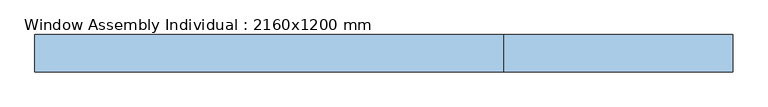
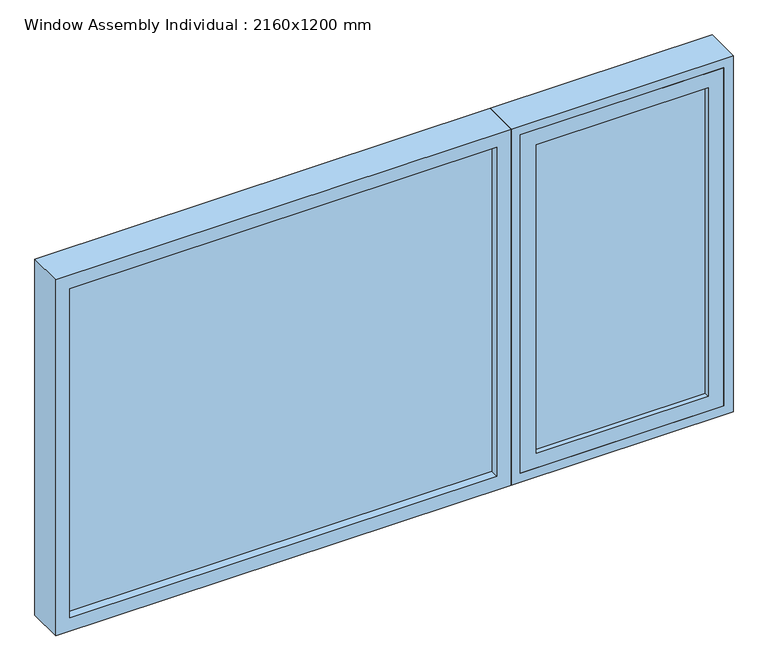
"""IFC4 building model written with IfcOpenShell, lengths in millimetres: window geometry, Window Assembly Individual : 2160x1200 mm."""

import ifcopenshell
import ifcopenshell.guid

model = None  # the IFC model being written
_history = None  # IfcOwnerHistory: only IFC2X3 demands one
_inside = {}  # id of a spatial element -> (the spatial element, [elements in it])
_under = {}  # id of a project, library or spatial element -> (it, [spatial elements below it])
_declared = {}  # id of a project -> (the project, [libraries it declares])
_typed = {}  # id of a type object -> (the type object, [elements of that type])
_made_of = {}  # id of a material, layer set ... -> (it, [elements and type objects made of it])


def new_model(schema):
    """Start an empty IFC model of exactly this schema.

    Asked for "IFC4X3", IfcOpenShell would pick the latest addendum, in which some entities
    have other attributes; the version numbers below select the first issue.
    IFC2X3 requires an IfcOwnerHistory on every rooted entity: one is made here for all.
    """
    global model, _history
    if schema == "IFC4X3":
        model = ifcopenshell.file(schema_version=(4, 3, 0, 0))
    else:
        model = ifcopenshell.file(schema=schema)
    _inside.clear()
    _under.clear()
    _declared.clear()
    _typed.clear()
    _made_of.clear()
    _history = None
    if model.schema == "IFC2X3":
        org = make("IfcOrganization", Name="unknown")
        user = make(
            "IfcPersonAndOrganization",
            ThePerson=make("IfcPerson", FamilyName="unknown"),
            TheOrganization=org,
        )
        app = make(
            "IfcApplication",
            ApplicationDeveloper=org,
            Version="unknown",
            ApplicationFullName="unknown",
            ApplicationIdentifier="unknown",
        )
        _history = make(
            "IfcOwnerHistory",
            OwningUser=user,
            OwningApplication=app,
            ChangeAction="ADDED",
            CreationDate=0,
        )
    return model


def make(cls, **values):
    """One entity of the class cls with the attributes given. An attribute that is None is left unset."""
    return model.create_entity(
        cls, **{name: value for name, value in values.items() if value is not None}
    )


def rooted(cls, **values):
    """An entity with a GlobalId (a new one), such as an element, a storey or a relation."""
    return make(cls, GlobalId=ifcopenshell.guid.new(), OwnerHistory=_history, **values)


def si_unit(unit_type, name, prefix=None):
    """IfcSIUnit, for example si_unit("LENGTHUNIT", "METRE", prefix="MILLI")."""
    return make("IfcSIUnit", UnitType=unit_type, Prefix=prefix, Name=name)


def assignment(units):
    """IfcUnitAssignment: the units of a project."""
    return None if units is None else make("IfcUnitAssignment", Units=units)


def point(xyz):
    """IfcCartesianPoint."""
    return None if xyz is None else make("IfcCartesianPoint", Coordinates=xyz)


def direction(xyz):
    """IfcDirection."""
    return None if xyz is None else make("IfcDirection", DirectionRatios=xyz)


def frame(location, z_axis=None, x_axis=None):
    """IfcAxis2Placement3D, a coordinate frame: its origin and axes. An axis left out is left unset."""
    return make(
        "IfcAxis2Placement3D",
        Location=point(location),
        Axis=direction(z_axis),
        RefDirection=direction(x_axis),
    )


def origin():
    """The frame at (0, 0, 0) with its axes left unset."""
    return frame((0.0, 0.0, 0.0))


def place(relative_to, where):
    """IfcLocalPlacement: puts the frame where relative to a parent placement (None: the world)."""
    return make(
        "IfcLocalPlacement", PlacementRelTo=relative_to, RelativePlacement=where
    )


def context(
    kind, dimensions, precision=None, world=None, true_north=None, identifier=None
):
    """IfcGeometricRepresentationContext, for example the 3D "Model" context."""
    return make(
        "IfcGeometricRepresentationContext",
        ContextIdentifier=identifier,
        ContextType=kind,
        CoordinateSpaceDimension=dimensions,
        Precision=precision,
        WorldCoordinateSystem=world,
        TrueNorth=true_north,
    )


def project(units=None, contexts=None):
    """IfcProject with its units and contexts."""
    return rooted(
        "IfcProject",
        Name="project",
        RepresentationContexts=contexts,
        UnitsInContext=assignment(units),
    )


def spatial(cls, under=None, at=None, **own):
    """A site, building, storey or space (cls), placed at a placement, below another one or the project."""
    s = rooted(cls, ObjectPlacement=at, **own)
    if under is not None:
        _under.setdefault(under.id(), (under, []))[1].append(s)
    return s


def polyline(points):
    """IfcPolyline through the points."""
    return make("IfcPolyline", Points=[point(p) for p in points])


def outline(outer, holes=None, kind="AREA"):
    """IfcArbitraryClosedProfileDef: a profile drawn as a closed curve; with holes, ...WithVoids."""
    if holes is None:
        return make("IfcArbitraryClosedProfileDef", ProfileType=kind, OuterCurve=outer)
    return make(
        "IfcArbitraryProfileDefWithVoids",
        ProfileType=kind,
        OuterCurve=outer,
        InnerCurves=holes,
    )


def extrude(swept, where, along, depth):
    """IfcExtrudedAreaSolid: the profile swept, set in the frame where, extruded along a direction by depth."""
    return make(
        "IfcExtrudedAreaSolid",
        SweptArea=swept,
        Position=where,
        ExtrudedDirection=direction(along),
        Depth=depth,
    )


def faces_of(points, faces, orient=None, outer=None):
    """IfcFace entities. A face is a list of loops; a loop is a list of indices into points, from 0.

    orient and outer hold one flag for each loop. By default every Orientation is true, the
    first loop of a face is its IfcFaceOuterBound and the others are IfcFaceBound.
    """
    made = []
    for i, loops in enumerate(faces):
        bounds = []
        for j, loop in enumerate(loops):
            is_outer = j == 0 if outer is None else outer[i][j]
            bounds.append(
                make(
                    "IfcFaceOuterBound" if is_outer else "IfcFaceBound",
                    Bound=make("IfcPolyLoop", Polygon=[points[k] for k in loop]),
                    Orientation=True if orient is None else orient[i][j],
                )
            )
        made.append(make("IfcFace", Bounds=bounds))
    return made


def faceted_brep(points, faces, orient=None, outer=None, voids=None):
    """IfcFacetedBrep: a solid bounded by flat faces; with voids (closed shells), ...WithVoids."""
    shared = [point(p) for p in points]
    hull = make("IfcClosedShell", CfsFaces=faces_of(shared, faces, orient, outer))
    if voids is None:
        return make("IfcFacetedBrep", Outer=hull)
    return make(
        "IfcFacetedBrepWithVoids",
        Outer=hull,
        Voids=[
            make(cls, CfsFaces=faces_of(shared, fs, o, b)) for cls, fs, o, b in voids
        ],
    )


def shape(context_of_items, identifier, shape_type, items):
    """IfcShapeRepresentation: the items that make up one representation, for example the "Body"."""
    return make(
        "IfcShapeRepresentation",
        ContextOfItems=context_of_items,
        RepresentationIdentifier=identifier,
        RepresentationType=shape_type,
        Items=items,
    )


def source(mapping_origin, context_of_items, identifier, shape_type, items):
    """IfcRepresentationMap: a shape defined once, which mapped items show again and again."""
    return make(
        "IfcRepresentationMap",
        MappingOrigin=mapping_origin,
        MappedRepresentation=shape(context_of_items, identifier, shape_type, items),
    )


def transform(
    local_origin,
    x_axis=None,
    y_axis=None,
    z_axis=None,
    scale=None,
    scale2=None,
    scale3=None,
    uniform=True,
):
    """IfcCartesianTransformationOperator3D, or its non-uniform kind. x_axis, y_axis, z_axis: its Axis1, 2, 3."""
    if uniform:
        return make(
            "IfcCartesianTransformationOperator3D",
            Axis1=direction(x_axis),
            Axis2=direction(y_axis),
            LocalOrigin=point(local_origin),
            Scale=scale,
            Axis3=direction(z_axis),
        )
    return make(
        "IfcCartesianTransformationOperator3DnonUniform",
        Axis1=direction(x_axis),
        Axis2=direction(y_axis),
        LocalOrigin=point(local_origin),
        Scale=scale,
        Axis3=direction(z_axis),
        Scale2=scale2,
        Scale3=scale3,
    )


def mapped(mapping_source, mapping_target):
    """IfcMappedItem: shows the shape of a source again, moved by a transform."""
    return make(
        "IfcMappedItem", MappingSource=mapping_source, MappingTarget=mapping_target
    )


def made_of(thing, what):
    """Note that an element or type object is made of a material, layer set ...; save() writes the relation."""
    if what is not None:
        _made_of.setdefault(what.id(), (what, []))[1].append(thing)
    return thing


def element(
    cls,
    number,
    at=None,
    inside=None,
    cuts=None,
    type_object=None,
    material=None,
    context=None,
    identifier="Body",
    shape_type=None,
    held_by="IfcProductDefinitionShape",
    body=None,
    shapes=None,
    **own,
):
    """One element of the class cls, such as IfcWall. Its Tag is "e" and its number.

    at: its placement. inside: the storey or other place that contains it. cuts: it is an
    opening in that element (IfcRelVoidsElement). A single representation is given by context,
    identifier, shape_type and body (its items); several are given by shapes. held_by: the class
    of the entity that holds the representations. save() writes the other relations.
    """
    e = rooted(cls, Tag="e%d" % number, ObjectPlacement=at, **own)
    if body is not None:
        shapes = [shape(context, identifier, shape_type, body)]
    if shapes is not None:
        e.Representation = make(held_by, Representations=shapes)
    if inside is not None:
        _inside.setdefault(inside.id(), (inside, []))[1].append(e)
    if cuts is not None:
        rooted(
            "IfcRelVoidsElement", RelatingBuildingElement=cuts, RelatedOpeningElement=e
        )
    if type_object is not None:
        _typed.setdefault(type_object.id(), (type_object, []))[1].append(e)
    return made_of(e, material)


def aggregate(whole, parts):
    """IfcRelAggregates: a whole, such as a stair, and the parts it consists of."""
    return rooted("IfcRelAggregates", RelatingObject=whole, RelatedObjects=parts)


def save(model, path):
    """Write the relations noted so far, then the file.

    IfcRelAggregates (storeys below a building ...), IfcRelContainedInSpatialStructure (elements
    in a storey), IfcRelDefinesByType, IfcRelAssociatesMaterial and IfcRelDeclares: one each for
    every whole, place, type object, material and project.
    """
    for whole, parts in _under.values():
        aggregate(whole, parts)
    for where, things in _inside.values():
        rooted(
            "IfcRelContainedInSpatialStructure",
            RelatedElements=things,
            RelatingStructure=where,
        )
    for kind, things in _typed.values():
        rooted("IfcRelDefinesByType", RelatedObjects=things, RelatingType=kind)
    for what, things in _made_of.values():
        rooted("IfcRelAssociatesMaterial", RelatedObjects=things, RelatingMaterial=what)
    for by, libraries in _declared.values():
        rooted("IfcRelDeclares", RelatingContext=by, RelatedDefinitions=libraries)
    model.write(path)


def window_assembly_individual_2160x1200_mm_64654f8e(model_context):
    return source(origin(), model_context, "Body", "SolidModel", [
        extrude(outline(polyline([(1970.0, 402.0), (830.0, 402.0), (830.0, 1050.0), (1970.0, 1050.0), (1970.0, 402.0)]), holes=[polyline([(880.0, 452.0), (1920.0, 452.0), (1920.0, 1000.0), (880.0, 1000.0), (880.0, 452.0)])]), frame((0.0, -190.0, 0.0), z_axis=(0.0, 1.0, 0.0), x_axis=(0.0, 0.0, 1.0)), (0.0, 0.0, 1.0), 50.0),
        extrude(outline(polyline([(1000.0, -155.0), (1000.0, -175.0), (452.0, -175.0), (452.0, -155.0), (1000.0, -155.0)])), frame((0.0, 0.0, 880.0), z_axis=(0.0, 0.0, 1.0), x_axis=(1.0, 0.0, 0.0)), (0.0, 0.0, 1.0), 1040.0),
        faceted_brep([(1035.0, -75.0, 1955.0), (1035.0, -75.0, 845.0), (1035.0, -140.0, 845.0), (1035.0, -140.0, 1955.0), (1050.0, -140.0, 830.0), (1050.0, -140.0, 1970.0), (402.0, -140.0, 1970.0), (402.0, -140.0, 830.0), (417.0, -140.0, 845.0), (417.0, -140.0, 1955.0), (417.0, -75.0, 845.0), (1080.0, -75.0, 2000.0), (1080.0, -75.0, 800.0), (372.0, -75.0, 800.0), (372.0, -75.0, 2000.0), (417.0, -75.0, 1955.0), (1080.0, -190.0, 2000.0), (1080.0, -190.0, 800.0), (372.0, -190.0, 800.0), (372.0, -190.0, 2000.0), (1050.0, -190.0, 1970.0), (1050.0, -190.0, 830.0), (402.0, -190.0, 830.0), (402.0, -190.0, 1970.0)], [[[0, 1, 2, 3]], [[4, 5, 6, 7], [3, 2, 8, 9]], [[1, 10, 8, 2]], [[11, 12, 13, 14], [1, 0, 15, 10]], [[16, 17, 12, 11]], [[17, 18, 13, 12]], [[17, 16, 19, 18], [20, 21, 22, 23]], [[10, 15, 9, 8]], [[18, 19, 14, 13]], [[7, 6, 23, 22]], [[4, 7, 22, 21]], [[5, 4, 21, 20]], [[15, 0, 3, 9]], [[19, 16, 11, 14]], [[6, 5, 20, 23]]]),
        extrude(outline(polyline([(327.0, -140.0), (327.0, -162.0), (-1035.0, -162.0), (-1035.0, -140.0), (327.0, -140.0)])), frame((0.0, 0.0, 845.0), z_axis=(0.0, 0.0, 1.0), x_axis=(1.0, 0.0, 0.0)), (0.0, 0.0, 1.0), 1110.0),
        extrude(outline(polyline([(800.0, 372.0), (2000.0, 372.0), (2000.0, -1080.0), (800.0, -1080.0), (800.0, 372.0)]), holes=[polyline([(1955.0, 327.0), (845.0, 327.0), (845.0, -1035.0), (1955.0, -1035.0), (1955.0, 327.0)])]), frame((0.0, -190.0, 0.0), z_axis=(0.0, 1.0, 0.0), x_axis=(0.0, 0.0, 1.0)), (0.0, 0.0, 1.0), 115.0),
    ])


if __name__ == "__main__":
    model = new_model("IFC4")
    model_context = context("Model", 3, world=origin())
    ifc_project = project(units=[si_unit("LENGTHUNIT", "METRE", prefix="MILLI")], contexts=[model_context])
    site = spatial("IfcSite", under=ifc_project)
    building = spatial("IfcBuilding", under=site)
    placement = place(None, origin())
    window_assembly_individual_2160x1200_mm_shape = window_assembly_individual_2160x1200_mm_64654f8e(model_context)
    element("IfcWindow", 1, ObjectType="Window Assembly Individual : 2160x1200 mm", at=placement, inside=building, context=model_context, shape_type="MappedRepresentation", body=[
        mapped(window_assembly_individual_2160x1200_mm_shape, transform((0.0, 0.0, 0.0), x_axis=(1.0, 0.0, 0.0), y_axis=(0.0, 1.0, 0.0), z_axis=(0.0, 0.0, 1.0))),
    ])
    save(model, "model.ifc")
